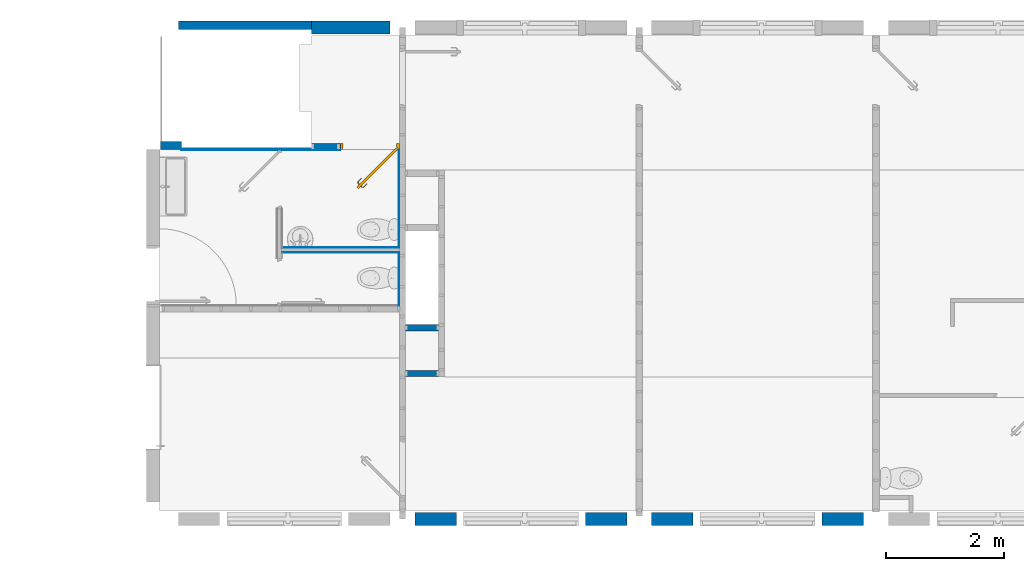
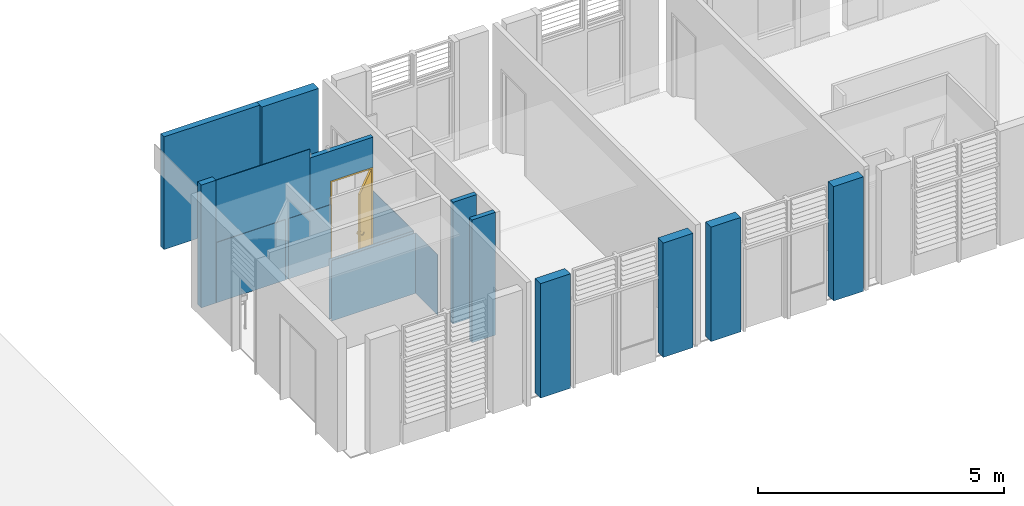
# One storey, part 4 of 15: 17 walls, 1 door, 5 openings.
"""IFC2X3 building model written with IfcOpenShell, lengths in metres."""

import ifcopenshell
import ifcopenshell.guid

model = None  # the IFC model being written
_history = None  # IfcOwnerHistory: only IFC2X3 demands one
_inside = {}  # id of a spatial element -> (the spatial element, [elements in it])
_under = {}  # id of a project, library or spatial element -> (it, [spatial elements below it])
_declared = {}  # id of a project -> (the project, [libraries it declares])
_typed = {}  # id of a type object -> (the type object, [elements of that type])
_made_of = {}  # id of a material, layer set ... -> (it, [elements and type objects made of it])


def new_model(schema):
    """Start an empty IFC model of exactly this schema.

    Asked for "IFC4X3", IfcOpenShell would pick the latest addendum, in which some entities
    have other attributes; the version numbers below select the first issue.
    IFC2X3 requires an IfcOwnerHistory on every rooted entity: one is made here for all.
    """
    global model, _history
    if schema == "IFC4X3":
        model = ifcopenshell.file(schema_version=(4, 3, 0, 0))
    else:
        model = ifcopenshell.file(schema=schema)
    _inside.clear()
    _under.clear()
    _declared.clear()
    _typed.clear()
    _made_of.clear()
    _history = None
    if model.schema == "IFC2X3":
        org = make("IfcOrganization", Name="unknown")
        user = make(
            "IfcPersonAndOrganization",
            ThePerson=make("IfcPerson", FamilyName="unknown"),
            TheOrganization=org,
        )
        app = make(
            "IfcApplication",
            ApplicationDeveloper=org,
            Version="unknown",
            ApplicationFullName="unknown",
            ApplicationIdentifier="unknown",
        )
        _history = make(
            "IfcOwnerHistory",
            OwningUser=user,
            OwningApplication=app,
            ChangeAction="ADDED",
            CreationDate=0,
        )
    return model


def make(cls, **values):
    """One entity of the class cls with the attributes given. An attribute that is None is left unset."""
    return model.create_entity(
        cls, **{name: value for name, value in values.items() if value is not None}
    )


def entity(cls, *values):
    """Any entity or typed value of the class cls, its attributes in the order of the schema. None: left unset."""
    e = model.create_entity(cls)
    for i, value in enumerate(values):
        if value is not None:
            e[i] = value
    return e


def rooted(cls, **values):
    """An entity with a GlobalId (a new one), such as an element, a storey or a relation."""
    return make(cls, GlobalId=ifcopenshell.guid.new(), OwnerHistory=_history, **values)


def si_unit(unit_type, name, prefix=None):
    """IfcSIUnit, for example si_unit("LENGTHUNIT", "METRE", prefix="MILLI")."""
    return make("IfcSIUnit", UnitType=unit_type, Prefix=prefix, Name=name)


def converted_unit(unit_type, name, factor, base, dimensions=None, offset=None):
    """IfcConversionBasedUnit, such as the inch: factor (a typed value) times the base unit."""
    return make(
        "IfcConversionBasedUnit"
        if offset is None
        else "IfcConversionBasedUnitWithOffset",
        ConversionOffset=offset,
        Dimensions=None
        if dimensions is None
        else entity("IfcDimensionalExponents", *dimensions),
        UnitType=unit_type,
        Name=name,
        ConversionFactor=make(
            "IfcMeasureWithUnit", ValueComponent=factor, UnitComponent=base
        ),
    )


def derived_unit(unit_type, elements):
    """IfcDerivedUnit: a product of units, each with its exponent."""
    return make(
        "IfcDerivedUnit",
        Elements=[
            make("IfcDerivedUnitElement", Unit=unit, Exponent=power)
            for unit, power in elements
        ],
        UnitType=unit_type,
    )


def assignment(units):
    """IfcUnitAssignment: the units of a project."""
    return None if units is None else make("IfcUnitAssignment", Units=units)


def point(xyz):
    """IfcCartesianPoint."""
    return None if xyz is None else make("IfcCartesianPoint", Coordinates=xyz)


def direction(xyz):
    """IfcDirection."""
    return None if xyz is None else make("IfcDirection", DirectionRatios=xyz)


def frame(location, z_axis=None, x_axis=None):
    """IfcAxis2Placement3D, a coordinate frame: its origin and axes. An axis left out is left unset."""
    return make(
        "IfcAxis2Placement3D",
        Location=point(location),
        Axis=direction(z_axis),
        RefDirection=direction(x_axis),
    )


def frame_2d(location, x_axis=None):
    """IfcAxis2Placement2D, a coordinate frame in the plane: its origin and x axis."""
    return make(
        "IfcAxis2Placement2D", Location=point(location), RefDirection=direction(x_axis)
    )


def origin():
    """The frame at (0, 0, 0) with its axes left unset."""
    return frame((0.0, 0.0, 0.0))


def place(relative_to, where):
    """IfcLocalPlacement: puts the frame where relative to a parent placement (None: the world)."""
    return make(
        "IfcLocalPlacement", PlacementRelTo=relative_to, RelativePlacement=where
    )


def context(
    kind, dimensions, precision=None, world=None, true_north=None, identifier=None
):
    """IfcGeometricRepresentationContext, for example the 3D "Model" context."""
    return make(
        "IfcGeometricRepresentationContext",
        ContextIdentifier=identifier,
        ContextType=kind,
        CoordinateSpaceDimension=dimensions,
        Precision=precision,
        WorldCoordinateSystem=world,
        TrueNorth=true_north,
    )


def subcontext(parent, identifier, kind, view, scale=None):
    """IfcGeometricRepresentationSubContext, for example "Body" below "Model"."""
    return make(
        "IfcGeometricRepresentationSubContext",
        ContextIdentifier=identifier,
        ContextType=kind,
        ParentContext=parent,
        TargetScale=scale,
        TargetView=view,
    )


def project(units=None, contexts=None):
    """IfcProject with its units and contexts."""
    return rooted(
        "IfcProject",
        Name="project",
        RepresentationContexts=contexts,
        UnitsInContext=assignment(units),
    )


def spatial(cls, under=None, at=None, **own):
    """A site, building, storey or space (cls), placed at a placement, below another one or the project."""
    s = rooted(cls, ObjectPlacement=at, **own)
    if under is not None:
        _under.setdefault(under.id(), (under, []))[1].append(s)
    return s


def polyline(points):
    """IfcPolyline through the points."""
    return make("IfcPolyline", Points=[point(p) for p in points])


def profile(cls, at=None, kind="AREA", **sizes):
    """A parametric profile (cls). Its sizes go by their IFC names, for example OverallWidth=200.0."""
    return make(cls, ProfileType=kind, Position=at, **sizes)


def rectangle(**sizes):
    """IfcRectangleProfileDef."""
    return profile("IfcRectangleProfileDef", **sizes)


def extrude(swept, where, along, depth):
    """IfcExtrudedAreaSolid: the profile swept, set in the frame where, extruded along a direction by depth."""
    return make(
        "IfcExtrudedAreaSolid",
        SweptArea=swept,
        Position=where,
        ExtrudedDirection=direction(along),
        Depth=depth,
    )


def clip(a, b, op="DIFFERENCE"):
    """IfcBooleanClippingResult: the solid a cut by the half space b."""
    return make(
        "IfcBooleanClippingResult", Operator=op, FirstOperand=a, SecondOperand=b
    )


def bounded_halfspace(plane, agree, where, boundary):
    """IfcPolygonalBoundedHalfSpace: a half space limited to a polygon's prism."""
    return make(
        "IfcPolygonalBoundedHalfSpace",
        BaseSurface=make("IfcPlane", Position=plane),
        AgreementFlag=agree,
        Position=where,
        PolygonalBoundary=boundary,
    )


def faces_of(points, faces, orient=None, outer=None):
    """IfcFace entities. A face is a list of loops; a loop is a list of indices into points, from 0.

    orient and outer hold one flag for each loop. By default every Orientation is true, the
    first loop of a face is its IfcFaceOuterBound and the others are IfcFaceBound.
    """
    made = []
    for i, loops in enumerate(faces):
        bounds = []
        for j, loop in enumerate(loops):
            is_outer = j == 0 if outer is None else outer[i][j]
            bounds.append(
                make(
                    "IfcFaceOuterBound" if is_outer else "IfcFaceBound",
                    Bound=make("IfcPolyLoop", Polygon=[points[k] for k in loop]),
                    Orientation=True if orient is None else orient[i][j],
                )
            )
        made.append(make("IfcFace", Bounds=bounds))
    return made


def faceted_brep(points, faces, orient=None, outer=None, voids=None):
    """IfcFacetedBrep: a solid bounded by flat faces; with voids (closed shells), ...WithVoids."""
    shared = [point(p) for p in points]
    hull = make("IfcClosedShell", CfsFaces=faces_of(shared, faces, orient, outer))
    if voids is None:
        return make("IfcFacetedBrep", Outer=hull)
    return make(
        "IfcFacetedBrepWithVoids",
        Outer=hull,
        Voids=[
            make(cls, CfsFaces=faces_of(shared, fs, o, b)) for cls, fs, o, b in voids
        ],
    )


def shape(context_of_items, identifier, shape_type, items):
    """IfcShapeRepresentation: the items that make up one representation, for example the "Body"."""
    return make(
        "IfcShapeRepresentation",
        ContextOfItems=context_of_items,
        RepresentationIdentifier=identifier,
        RepresentationType=shape_type,
        Items=items,
    )


def source(mapping_origin, context_of_items, identifier, shape_type, items):
    """IfcRepresentationMap: a shape defined once, which mapped items show again and again."""
    return make(
        "IfcRepresentationMap",
        MappingOrigin=mapping_origin,
        MappedRepresentation=shape(context_of_items, identifier, shape_type, items),
    )


def transform(
    local_origin,
    x_axis=None,
    y_axis=None,
    z_axis=None,
    scale=None,
    scale2=None,
    scale3=None,
    uniform=True,
):
    """IfcCartesianTransformationOperator3D, or its non-uniform kind. x_axis, y_axis, z_axis: its Axis1, 2, 3."""
    if uniform:
        return make(
            "IfcCartesianTransformationOperator3D",
            Axis1=direction(x_axis),
            Axis2=direction(y_axis),
            LocalOrigin=point(local_origin),
            Scale=scale,
            Axis3=direction(z_axis),
        )
    return make(
        "IfcCartesianTransformationOperator3DnonUniform",
        Axis1=direction(x_axis),
        Axis2=direction(y_axis),
        LocalOrigin=point(local_origin),
        Scale=scale,
        Axis3=direction(z_axis),
        Scale2=scale2,
        Scale3=scale3,
    )


def mapped(mapping_source, mapping_target):
    """IfcMappedItem: shows the shape of a source again, moved by a transform."""
    return make(
        "IfcMappedItem", MappingSource=mapping_source, MappingTarget=mapping_target
    )


def material(Name=None, Category=None):
    """IfcMaterial."""
    return make("IfcMaterial", Name=Name, Category=Category)


def layer(
    of_material, thickness, ventilated=None, Name=None, Category=None, Priority=None
):
    """IfcMaterialLayer: one layer of a wall or slab, of a material (None: an air gap)."""
    return make(
        "IfcMaterialLayer",
        Material=of_material,
        LayerThickness=thickness,
        IsVentilated=ventilated,
        Name=Name,
        Category=Category,
        Priority=Priority,
    )


def layer_set(layers, Name=None):
    """IfcMaterialLayerSet."""
    return make("IfcMaterialLayerSet", MaterialLayers=layers, LayerSetName=Name)


def layer_usage(for_layer_set, set_direction, sense, offset, extent=None):
    """IfcMaterialLayerSetUsage: how a layer set lies in its element."""
    return make(
        "IfcMaterialLayerSetUsage",
        ForLayerSet=for_layer_set,
        LayerSetDirection=set_direction,
        DirectionSense=sense,
        OffsetFromReferenceLine=offset,
        ReferenceExtent=extent,
    )


def made_of(thing, what):
    """Note that an element or type object is made of a material, layer set ...; save() writes the relation."""
    if what is not None:
        _made_of.setdefault(what.id(), (what, []))[1].append(thing)
    return thing


def type_object(cls, material=None, **own):
    """A type object (cls), such as IfcWallType, which elements share."""
    return made_of(rooted(cls, **own), material)


def type_shapes(of_type, sources):
    """Give a type object the sources (RepresentationMaps) that its elements show as mapped items."""
    of_type.RepresentationMaps = sources


def element(
    cls,
    number,
    at=None,
    inside=None,
    cuts=None,
    type_object=None,
    material=None,
    context=None,
    identifier="Body",
    shape_type=None,
    held_by="IfcProductDefinitionShape",
    body=None,
    shapes=None,
    **own,
):
    """One element of the class cls, such as IfcWall. Its Tag is "e" and its number.

    at: its placement. inside: the storey or other place that contains it. cuts: it is an
    opening in that element (IfcRelVoidsElement). A single representation is given by context,
    identifier, shape_type and body (its items); several are given by shapes. held_by: the class
    of the entity that holds the representations. save() writes the other relations.
    """
    e = rooted(cls, Tag="e%d" % number, ObjectPlacement=at, **own)
    if body is not None:
        shapes = [shape(context, identifier, shape_type, body)]
    if shapes is not None:
        e.Representation = make(held_by, Representations=shapes)
    if inside is not None:
        _inside.setdefault(inside.id(), (inside, []))[1].append(e)
    if cuts is not None:
        rooted(
            "IfcRelVoidsElement", RelatingBuildingElement=cuts, RelatedOpeningElement=e
        )
    if type_object is not None:
        _typed.setdefault(type_object.id(), (type_object, []))[1].append(e)
    return made_of(e, material)


def fill(opening, filler):
    """IfcRelFillsElement: the door or window that sits in an opening."""
    return rooted(
        "IfcRelFillsElement",
        RelatingOpeningElement=opening,
        RelatedBuildingElement=filler,
    )


def aggregate(whole, parts):
    """IfcRelAggregates: a whole, such as a stair, and the parts it consists of."""
    return rooted("IfcRelAggregates", RelatingObject=whole, RelatedObjects=parts)


def save(model, path):
    """Write the relations noted so far, then the file.

    IfcRelAggregates (storeys below a building ...), IfcRelContainedInSpatialStructure (elements
    in a storey), IfcRelDefinesByType, IfcRelAssociatesMaterial and IfcRelDeclares: one each for
    every whole, place, type object, material and project.
    """
    for whole, parts in _under.values():
        aggregate(whole, parts)
    for where, things in _inside.values():
        rooted(
            "IfcRelContainedInSpatialStructure",
            RelatedElements=things,
            RelatingStructure=where,
        )
    for kind, things in _typed.values():
        rooted("IfcRelDefinesByType", RelatedObjects=things, RelatingType=kind)
    for what, things in _made_of.values():
        rooted("IfcRelAssociatesMaterial", RelatedObjects=things, RelatingMaterial=what)
    for by, libraries in _declared.values():
        rooted("IfcRelDeclares", RelatingContext=by, RelatedDefinitions=libraries)
    model.write(path)


model = new_model("IFC2X3")

# Units and contexts
model_context = context("Model", 3, precision=1e-05, world=origin(), true_north=direction((6.12303176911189e-17, 1.0)))
body_context = subcontext(model_context, "Body", "Model", "MODEL_VIEW")
ifc_project = project(units=[si_unit("LENGTHUNIT", "METRE"), si_unit("AREAUNIT", "SQUARE_METRE"), si_unit("VOLUMEUNIT", "CUBIC_METRE"), converted_unit("PLANEANGLEUNIT", "DEGREE", entity("IfcRatioMeasure", 0.0174532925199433), si_unit("PLANEANGLEUNIT", "RADIAN"), dimensions=[0, 0, 0, 0, 0, 0, 0]), si_unit("MASSUNIT", "GRAM", prefix="KILO"), derived_unit("MASSDENSITYUNIT", [(si_unit("MASSUNIT", "GRAM", prefix="KILO"), 1), (si_unit("LENGTHUNIT", "METRE"), -3)]), si_unit("TIMEUNIT", "SECOND"), si_unit("FREQUENCYUNIT", "HERTZ"), si_unit("THERMODYNAMICTEMPERATUREUNIT", "DEGREE_CELSIUS"), derived_unit("THERMALTRANSMITTANCEUNIT", [(si_unit("MASSUNIT", "GRAM", prefix="KILO"), 1), (si_unit("THERMODYNAMICTEMPERATUREUNIT", "KELVIN"), -1), (si_unit("TIMEUNIT", "SECOND"), -3)]), derived_unit("VOLUMETRICFLOWRATEUNIT", [(si_unit("LENGTHUNIT", "METRE"), 3), (si_unit("TIMEUNIT", "SECOND"), -1)]), si_unit("ELECTRICCURRENTUNIT", "AMPERE"), si_unit("ELECTRICVOLTAGEUNIT", "VOLT"), si_unit("POWERUNIT", "WATT"), si_unit("FORCEUNIT", "NEWTON", prefix="KILO"), si_unit("ILLUMINANCEUNIT", "LUX"), si_unit("LUMINOUSFLUXUNIT", "LUMEN"), si_unit("LUMINOUSINTENSITYUNIT", "CANDELA"), derived_unit("USERDEFINED", [(si_unit("MASSUNIT", "GRAM", prefix="KILO"), -1), (si_unit("LENGTHUNIT", "METRE"), -2), (si_unit("TIMEUNIT", "SECOND"), 3), (si_unit("LUMINOUSFLUXUNIT", "LUMEN"), 1)]), derived_unit("LINEARVELOCITYUNIT", [(si_unit("LENGTHUNIT", "METRE"), 1), (si_unit("TIMEUNIT", "SECOND"), -1)]), si_unit("PRESSUREUNIT", "PASCAL"), derived_unit("USERDEFINED", [(si_unit("LENGTHUNIT", "METRE"), -2), (si_unit("MASSUNIT", "GRAM", prefix="KILO"), 1), (si_unit("TIMEUNIT", "SECOND"), -2)])], contexts=[model_context])

# Site, building, storey
site_placement = place(None, origin())
site = spatial("IfcSite", under=ifc_project, at=site_placement, Name="Surface", CompositionType="ELEMENT")
building_placement = place(site_placement, origin())
building = spatial("IfcBuilding", under=site, at=building_placement, Name="ExPREF", CompositionType="ELEMENT")
storey_placement = place(building_placement, frame((0.0, 0.0, 7.83)))
storey = spatial("IfcBuildingStorey", under=building, at=storey_placement, Name="R+2", CompositionType="ELEMENT", Elevation=7.83)

# Wall, opening, door
ifc_material_1 = material(Name="AA-peinture blanc satiné")
ifc_layer_1 = layer(ifc_material_1, 0.0125)
ifc_material_2 = material(Name="AA-isolant plancher")
ifc_layer_2 = layer(ifc_material_2, 0.08)
ifc_layer_3 = layer(ifc_material_1, 0.0125)
ifc_layer_set_1 = layer_set([ifc_layer_1, ifc_layer_2, ifc_layer_3], Name="Mur de base:A-cloison FC 10.5 cm")
ifc_layer_usage_1 = layer_usage(ifc_layer_set_1, "AXIS2", "NEGATIVE", 0.0525)
wall_type_1 = type_object("IfcWallType", Name="Mur de base:A-cloison FC 10.5 cm", PredefinedType="STANDARD", material=ifc_layer_set_1)
wall_1_placement = place(storey_placement, frame((47.949743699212, -187.066488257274, 0.0)))
wall_1 = element("IfcWallStandardCase", 1, at=wall_1_placement, inside=storey, type_object=wall_type_1, material=ifc_layer_usage_1, Name="Mur de base:A-cloison FC 10.5 cm", ObjectType="Mur de base:A-cloison FC 10.5 cm", context=body_context, shape_type="SweptSolid", body=[
    extrude(rectangle(XDim=1.48750000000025, YDim=0.104999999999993, at=frame_2d((0.743750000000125, 0.0), x_axis=(-1.0, 0.0))), origin(), (0.0, 0.0, 1.0), 2.82),
])
opening_1_placement = place(wall_1_placement, frame((1.48750000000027, 0.0525, 0.0)))
opening_1 = element("IfcOpeningElement", 2, at=opening_1_placement, cuts=wall_1, Name="Porte intérieur bois:PP (0.93m x 2.04m):1", ObjectType="Opening", context=body_context, shape_type="SweptSolid", body=[
    extrude(rectangle(XDim=2.075, YDim=1.0, at=frame_2d((1.0375, 0.5), x_axis=(1.0, 0.0))), frame((0.0, 0.0, 0.0), z_axis=(0.0, -1.0, 0.0), x_axis=(0.0, 0.0, 1.0)), (0.0, 0.0, 1.0), 0.105),
])
ifc_material_3 = material(Name="AA-Blanc satiné")
door_style = type_object("IfcDoorStyle", Name="PP (0.93m x 2.04m)", ConstructionType="NOTDEFINED", OperationType="SINGLE_SWING_LEFT", ParameterTakesPrecedence=False, Sizeable=False, material=ifc_material_3)
shared_shape = source(origin(), body_context, "Body", "Brep", [
    faceted_brep([(0.316565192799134, -0.584795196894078, 1.00778044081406), (0.313754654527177, -0.587605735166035, 1.007), (0.31375465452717, -0.587605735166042, 0.992999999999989), (0.316565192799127, -0.584795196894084, 0.99221955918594), (0.319429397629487, -0.581930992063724, 0.992219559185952), (0.32223993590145, -0.579120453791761, 0.993000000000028), (0.322239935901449, -0.579120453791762, 1.007), (0.319429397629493, -0.581930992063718, 1.00778044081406), (0.306340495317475, -0.563221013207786, 0.993000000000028), (0.306340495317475, -0.563221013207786, 1.007), (0.302365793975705, -0.56486738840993, 1.00778044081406), (0.302365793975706, -0.545331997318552, 1.00778044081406), (0.298315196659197, -0.543654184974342, 1.00778044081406), (0.298315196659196, -0.56654520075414, 1.00778044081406), (0.294340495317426, -0.568191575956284, 1.007), (0.294340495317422, -0.568191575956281, 0.992999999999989), (0.298315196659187, -0.566545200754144, 0.99221955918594), (0.298315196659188, -0.543654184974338, 0.99221955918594), (0.302365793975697, -0.545331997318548, 0.992219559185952), (0.302365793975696, -0.564867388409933, 0.992219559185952), (0.306340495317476, -0.546978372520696, 0.993000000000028), (0.306340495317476, -0.546978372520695, 1.007), (0.294340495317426, -0.542007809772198, 1.007), (0.294340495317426, -0.542007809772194, 0.992999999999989), (0.36471958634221, -0.488599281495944, 0.993000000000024), (0.361909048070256, -0.485788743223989, 0.992219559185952), (0.359044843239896, -0.48292453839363, 0.99221955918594), (0.356234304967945, -0.480114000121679, 0.992999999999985), (0.356234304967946, -0.480114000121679, 1.007), (0.359044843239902, -0.482924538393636, 1.00778044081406), (0.361909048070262, -0.485788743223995, 1.00778044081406), (0.364719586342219, -0.488599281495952, 1.007), (0.335530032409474, -0.517788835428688, 0.993000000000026), (0.335530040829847, -0.517788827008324, 1.007), (0.330705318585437, -0.51412826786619, 1.0078786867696), (0.322575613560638, -0.513772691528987, 1.007), (0.322575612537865, -0.513772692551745, 0.992999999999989), (0.330705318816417, -0.514128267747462, 0.992121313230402)], [[[0, 1, 2, 3, 4, 5, 6, 7]], [[6, 5, 8, 9]], [[9, 10, 7, 6]], [[10, 11, 12, 13, 0, 7]], [[13, 14, 1, 0]], [[2, 1, 14, 15]], [[15, 16, 3, 2]], [[16, 17, 18, 19, 4, 3]], [[19, 8, 5, 4]], [[9, 8, 20, 21]], [[21, 11, 10, 9]], [[12, 22, 14, 13]], [[15, 14, 22, 23]], [[23, 17, 16, 15]], [[18, 20, 8, 19]], [[24, 25, 26, 27, 28, 29, 30, 31]], [[21, 20, 32, 24, 31, 33]], [[33, 30, 34]], [[35, 34, 29]], [[21, 33, 11]], [[33, 31, 30]], [[28, 35, 29]], [[22, 12, 35]], [[35, 12, 34]], [[12, 11, 34]], [[11, 33, 34]], [[29, 34, 30]], [[22, 35, 28, 27, 36, 23]], [[36, 26, 37]], [[27, 26, 36]], [[17, 23, 36]], [[37, 32, 18]], [[20, 18, 32]], [[32, 25, 24]], [[26, 25, 37]], [[25, 32, 37]], [[17, 36, 37]], [[17, 37, 18]]]),
    faceted_brep([(0.351920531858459, -0.620150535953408, 1.00778044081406), (0.354784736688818, -0.617286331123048, 1.00778044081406), (0.357595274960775, -0.614475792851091, 1.00699999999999), (0.357595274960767, -0.614475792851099, 0.993000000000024), (0.354784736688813, -0.617286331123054, 0.992219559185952), (0.351920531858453, -0.620150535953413, 0.99221955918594), (0.349109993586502, -0.622961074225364, 0.992999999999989), (0.349109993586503, -0.622961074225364, 1.007), (0.368662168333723, -0.642513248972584, 1.007), (0.370308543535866, -0.638538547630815, 1.00778044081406), (0.3930050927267, -0.638538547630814, 1.00778044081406), (0.391327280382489, -0.634487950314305, 1.00778044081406), (0.371986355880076, -0.634487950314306, 1.00778044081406), (0.373632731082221, -0.630513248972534, 1.007), (0.373632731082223, -0.630513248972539, 0.993000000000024), (0.371986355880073, -0.634487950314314, 0.992219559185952), (0.391327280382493, -0.634487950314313, 0.992219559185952), (0.393005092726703, -0.638538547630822, 0.99221955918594), (0.370308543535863, -0.638538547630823, 0.99221955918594), (0.368662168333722, -0.642513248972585, 0.992999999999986), (0.394651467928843, -0.642513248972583, 1.007), (0.389680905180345, -0.630513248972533, 1.007), (0.38968090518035, -0.630513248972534, 0.993000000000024), (0.394651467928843, -0.642513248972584, 0.992999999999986), (0.456623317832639, -0.580541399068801, 0.992999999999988), (0.453812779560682, -0.577730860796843, 0.99221955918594), (0.450948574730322, -0.574866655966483, 0.992219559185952), (0.448138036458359, -0.57205611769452, 0.993000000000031), (0.44813803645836, -0.572056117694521, 1.007), (0.450948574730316, -0.574866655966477, 1.00778044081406), (0.453812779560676, -0.577730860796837, 1.00778044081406), (0.456623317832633, -0.580541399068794, 1.00699999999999), (0.422886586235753, -0.614278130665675, 1.007), (0.422570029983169, -0.606109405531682, 1.0078786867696), (0.418909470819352, -0.601284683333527, 1.007), (0.418909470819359, -0.601284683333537, 0.993000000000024), (0.422570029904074, -0.606109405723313, 0.992121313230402), (0.422886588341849, -0.614278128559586, 0.992999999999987)], [[[0, 1, 2, 3, 4, 5, 6, 7]], [[8, 9, 0, 7]], [[9, 10, 11, 12, 1, 0]], [[12, 13, 2, 1]], [[3, 2, 13, 14]], [[14, 15, 4, 3]], [[15, 16, 17, 18, 5, 4]], [[18, 19, 6, 5]], [[7, 6, 19, 8]], [[20, 10, 9, 8]], [[11, 21, 13, 12]], [[14, 13, 21, 22]], [[22, 16, 15, 14]], [[17, 23, 19, 18]], [[8, 19, 23, 20]], [[24, 25, 26, 27, 28, 29, 30, 31]], [[32, 30, 33]], [[31, 30, 32]], [[10, 20, 32]], [[33, 34, 11]], [[21, 11, 34]], [[34, 29, 28]], [[30, 29, 33]], [[29, 34, 33]], [[10, 32, 33]], [[10, 33, 11]], [[22, 21, 34, 28, 27, 35]], [[35, 26, 36]], [[37, 36, 25]], [[22, 35, 16]], [[35, 27, 26]], [[24, 37, 25]], [[23, 17, 37]], [[37, 17, 36]], [[17, 16, 36]], [[16, 35, 36]], [[25, 36, 26]], [[20, 23, 37, 24, 31, 32]]]),
    faceted_brep([(0.328853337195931, -0.579578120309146, 0.866003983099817), (0.335674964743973, -0.572756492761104, 0.870000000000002), (0.335674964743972, -0.572756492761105, 1.08), (0.32885333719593, -0.579578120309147, 1.08399601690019), (0.321532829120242, -0.586898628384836, 1.08535898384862), (0.314212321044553, -0.594219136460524, 1.08399601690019), (0.307390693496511, -0.601040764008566, 1.08), (0.307390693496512, -0.601040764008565, 0.870000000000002), (0.314212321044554, -0.594219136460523, 0.866003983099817), (0.321532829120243, -0.586898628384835, 0.86464101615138), (0.325317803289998, -0.576042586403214, 1.08399601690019), (0.33213943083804, -0.569220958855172, 1.08), (0.332139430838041, -0.569220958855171, 0.870000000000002), (0.325317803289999, -0.576042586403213, 0.866003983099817), (0.31799729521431, -0.583363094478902, 0.86464101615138), (0.310676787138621, -0.59068360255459, 0.866003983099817), (0.303855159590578, -0.597505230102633, 0.870000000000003), (0.303855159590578, -0.597505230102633, 1.08), (0.31067678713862, -0.590683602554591, 1.08399601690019), (0.317997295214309, -0.583363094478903, 1.08535898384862)], [[[0, 1, 2, 3, 4, 5, 6, 7, 8, 9]], [[10, 11, 12, 13, 14, 15, 16, 17, 18, 19]], [[11, 10, 3, 2]], [[3, 10, 19, 4]], [[19, 18, 5, 4]], [[18, 17, 6, 5]], [[7, 6, 17, 16]], [[16, 15, 8, 7]], [[8, 15, 14, 9]], [[14, 13, 0, 9]], [[13, 12, 1, 0]], [[2, 1, 12, 11]]]),
    faceted_brep([(0.360673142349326, -0.61139792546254, 0.866003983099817), (0.367494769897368, -0.604576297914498, 0.870000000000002), (0.367494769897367, -0.604576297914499, 1.08), (0.360673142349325, -0.611397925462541, 1.08399601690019), (0.353352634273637, -0.61871843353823, 1.08535898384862), (0.346032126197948, -0.626038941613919, 1.08399601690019), (0.339210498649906, -0.632860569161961, 1.08), (0.339210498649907, -0.63286056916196, 0.870000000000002), (0.346032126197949, -0.626038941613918, 0.866003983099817), (0.353352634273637, -0.618718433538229, 0.86464101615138), (0.357137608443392, -0.607862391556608, 1.08399601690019), (0.363959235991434, -0.601040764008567, 1.08), (0.363959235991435, -0.601040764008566, 0.870000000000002), (0.357137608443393, -0.607862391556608, 0.866003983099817), (0.349817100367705, -0.615182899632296, 0.86464101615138), (0.342496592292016, -0.622503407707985, 0.866003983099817), (0.335674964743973, -0.629325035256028, 0.870000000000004), (0.335674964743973, -0.629325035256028, 1.08), (0.342496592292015, -0.622503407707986, 1.08399601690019), (0.349817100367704, -0.615182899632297, 1.08535898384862)], [[[0, 1, 2, 3, 4, 5, 6, 7, 8, 9]], [[10, 11, 12, 13, 14, 15, 16, 17, 18, 19]], [[16, 15, 8, 7]], [[8, 15, 14, 9]], [[14, 13, 0, 9]], [[13, 12, 1, 0]], [[2, 1, 12, 11]], [[11, 10, 3, 2]], [[3, 10, 19, 4]], [[19, 18, 5, 4]], [[18, 17, 6, 5]], [[7, 6, 17, 16]]]),
    faceted_brep([(0.279106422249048, -0.629325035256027, 2.04), (0.936715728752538, 0.0282842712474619, 2.04), (0.936715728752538, 0.0282842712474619, 0.0), (0.279106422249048, -0.629325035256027, 0.0), (0.30739069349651, -0.657609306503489, 2.04), (0.30739069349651, -0.657609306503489, 0.0), (0.965, 0.0, 0.0), (0.965, 0.0, 2.04)], [[[0, 1, 2, 3]], [[4, 5, 6, 7]], [[1, 0, 4, 7]], [[2, 1, 7, 6]], [[3, 2, 6, 5]], [[0, 3, 5, 4]]]),
    faceted_brep([(0.0, 0.0, 0.0), (0.0, 0.105000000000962, 0.0), (0.0499999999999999, 0.105000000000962, 0.0), (0.0499999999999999, 0.0400000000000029, 0.0), (0.0349999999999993, 0.0400000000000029, 0.0), (0.0349999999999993, 0.0, 0.0), (0.0, 0.0, 2.07500000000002), (0.0, 0.105000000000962, 2.07500000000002), (1.0, 0.105000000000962, 2.07500000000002), (1.0, 0.105000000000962, 0.0), (0.95, 0.105000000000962, 0.0), (0.95, 0.105000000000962, 2.025), (0.0500000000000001, 0.105000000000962, 2.025), (0.05, 0.0400000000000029, 2.025), (0.95, 0.0400000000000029, 2.025), (0.95, 0.0400000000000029, 0.0), (0.965, 0.0400000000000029, 0.0), (0.965, 0.0400000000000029, 2.04), (0.0349999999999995, 0.0400000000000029, 2.04), (0.0349999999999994, 0.0, 2.04), (0.965, 0.0, 2.04), (0.965, 0.0, 0.0), (1.0, 0.0, 0.0), (1.0, 0.0, 2.07500000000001)], [[[0, 1, 2, 3, 4, 5]], [[1, 0, 6, 7]], [[2, 1, 7, 8, 9, 10, 11, 12]], [[3, 2, 12, 13]], [[4, 3, 13, 14, 15, 16, 17, 18]], [[5, 4, 18, 19]], [[0, 5, 19, 20, 21, 22, 23, 6]], [[8, 23, 22, 9]], [[22, 21, 16, 15, 10, 9]], [[14, 11, 10, 15]], [[20, 17, 16, 21]], [[7, 6, 23, 8]], [[13, 12, 11, 14]], [[19, 18, 17, 20]]]),
])
type_shapes(door_style, [shared_shape])
door_placement = place(opening_1_placement, frame((-1.0, -0.10499999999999, 0.0)))
door = element("IfcDoor", 3, at=door_placement, inside=storey, type_object=door_style, material=ifc_material_3, Name="Porte intérieur bois:PP (0.93m x 2.04m)", ObjectType="PP (0.93m x 2.04m)", OverallHeight=2.075, OverallWidth=0.999999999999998, context=body_context, shape_type="MappedRepresentation", body=[
    mapped(shared_shape, transform((0.0, 0.0, 0.0), scale=1.0)),
])
fill(opening_1, door)

# Walls
ifc_layer_usage_2 = layer_usage(ifc_layer_set_1, "AXIS2", "NEGATIVE", 0.0525)
wall_2_placement = place(storey_placement, frame((49.5422436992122, -190.900069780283, 0.0)))
element("IfcWallStandardCase", 4, at=wall_2_placement, inside=storey, type_object=wall_type_1, material=ifc_layer_usage_2, Name="Mur de base:A-cloison FC 10.5 cm", ObjectType="Mur de base:A-cloison FC 10.5 cm", context=body_context, shape_type="SweptSolid", body=[
    extrude(rectangle(XDim=0.555000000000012, YDim=0.104999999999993, at=frame_2d((0.277500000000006, 0.0), x_axis=(-1.0, 0.0))), origin(), (0.0, 0.0, 1.0), 3.05),
])
ifc_layer_usage_3 = layer_usage(ifc_layer_set_1, "AXIS2", "NEGATIVE", 0.0525)
wall_3_placement = place(storey_placement, frame((50.0972436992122, -190.128069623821, 0.0), z_axis=(0.0, 0.0, 1.0), x_axis=(-1.0, 0.0, 0.0)))
element("IfcWallStandardCase", 5, at=wall_3_placement, inside=storey, type_object=wall_type_1, material=ifc_layer_usage_3, Name="Mur de base:A-cloison FC 10.5 cm", ObjectType="Mur de base:A-cloison FC 10.5 cm", context=body_context, shape_type="SweptSolid", body=[
    extrude(rectangle(XDim=0.555000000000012, YDim=0.104999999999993, at=frame_2d((0.277500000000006, 0.0), x_axis=(-1.0, 0.0))), origin(), (0.0, 0.0, 1.0), 3.02),
])
ifc_material_4 = material(Name="AA-BTC")
ifc_layer_4 = layer(ifc_material_4, 0.22)
ifc_layer_set_2 = layer_set([ifc_layer_4], Name="Mur de base:A-prémur BTC")
ifc_layer_usage_4 = layer_usage(ifc_layer_set_2, "AXIS2", "NEGATIVE", 0.11)
wall_type_2 = type_object("IfcWallType", Name="Mur de base:A-prémur BTC", PredefinedType="STANDARD", material=ifc_layer_set_2)
wall_4_placement = place(storey_placement, frame((49.2797436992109, -185.056487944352, 0.0999999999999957), z_axis=(0.0, 0.0, 1.0), x_axis=(-1.0, 0.0, 0.0)))
element("IfcWallStandardCase", 6, at=wall_4_placement, inside=storey, type_object=wall_type_2, material=ifc_layer_usage_4, Name="Mur de base:A-prémur BTC", ObjectType="Mur de base:A-prémur BTC", context=body_context, shape_type="Clipping", body=[
    clip(clip(extrude(rectangle(XDim=1.32999999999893, YDim=0.220000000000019, at=frame_2d((0.664999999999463, -2.26901830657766e-15), x_axis=(-1.0, 0.0))), origin(), (0.0, 0.0, 1.0), 2.8), bounded_halfspace(frame((1.32761616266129, 0.0299999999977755, 2.8), z_axis=(0.0, 1.0, 0.0), x_axis=(-1.0, 0.0, 0.0)), True, frame((1.32761616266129, 0.0299999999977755, 2.8), z_axis=(0.0, 1.0, 0.0), x_axis=(-1.0, 0.0, 0.0)), polyline([(0.0, 0.0), (-0.0023838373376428, 0.0), (-0.0023838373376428, -2.8), (0.0, -2.8), (0.0, 0.0)]))), bounded_halfspace(frame((1.32761616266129, 0.0299999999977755, 0.0), z_axis=(-1.0, 0.0, 0.0), x_axis=(0.0, 1.0, 0.0)), True, frame((1.32761616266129, 0.0299999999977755, 0.0), z_axis=(-1.0, 0.0, 0.0), x_axis=(0.0, 1.0, 0.0)), polyline([(0.0, 0.0), (-0.13999999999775, 0.0), (-0.13999999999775, -2.8), (0.0, -2.8), (0.0, 0.0)]))),
])
ifc_layer_usage_5 = layer_usage(ifc_layer_set_2, "AXIS2", "NEGATIVE", 0.11)
wall_5_placement = place(storey_placement, frame((49.6997436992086, -193.359651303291, 0.0999999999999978)))
element("IfcWallStandardCase", 7, at=wall_5_placement, inside=storey, type_object=wall_type_2, material=ifc_layer_usage_5, Name="Mur de base:A-prémur BTC", ObjectType="Mur de base:A-prémur BTC", context=body_context, shape_type="SweptSolid", body=[
    extrude(rectangle(XDim=0.699999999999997, YDim=0.220000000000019, at=frame_2d((0.349999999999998, -5.98826543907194e-15), x_axis=(-1.0, 0.0))), origin(), (0.0, 0.0, 1.0), 2.84),
])
ifc_layer_usage_6 = layer_usage(ifc_layer_set_2, "AXIS2", "POSITIVE", -0.11)
wall_6_placement = place(storey_placement, frame((53.2797436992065, -193.359651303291, 0.0999999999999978), z_axis=(0.0, 0.0, 1.0), x_axis=(-1.0, 0.0, 0.0)))
element("IfcWallStandardCase", 8, at=wall_6_placement, inside=storey, type_object=wall_type_2, material=ifc_layer_usage_6, Name="Mur de base:A-prémur BTC", ObjectType="Mur de base:A-prémur BTC", context=body_context, shape_type="SweptSolid", body=[
    extrude(rectangle(XDim=0.700000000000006, YDim=0.220000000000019, at=frame_2d((0.350000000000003, -5.98826543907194e-15), x_axis=(-1.0, 0.0))), origin(), (0.0, 0.0, 1.0), 2.84),
])
ifc_layer_usage_7 = layer_usage(ifc_layer_set_2, "AXIS2", "NEGATIVE", 0.11)
wall_7_placement = place(storey_placement, frame((53.6997436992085, -193.359651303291, 0.0999999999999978)))
element("IfcWallStandardCase", 9, at=wall_7_placement, inside=storey, type_object=wall_type_2, material=ifc_layer_usage_7, Name="Mur de base:A-prémur BTC", ObjectType="Mur de base:A-prémur BTC", context=body_context, shape_type="SweptSolid", body=[
    extrude(rectangle(XDim=0.699999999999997, YDim=0.220000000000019, at=frame_2d((0.349999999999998, -5.98826543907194e-15), x_axis=(-1.0, 0.0))), origin(), (0.0, 0.0, 1.0), 2.84),
])
ifc_layer_usage_8 = layer_usage(ifc_layer_set_2, "AXIS2", "POSITIVE", -0.11)
wall_8_placement = place(storey_placement, frame((57.2797436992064, -193.359651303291, 0.0999999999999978), z_axis=(0.0, 0.0, 1.0), x_axis=(-1.0, 0.0, 0.0)))
element("IfcWallStandardCase", 10, at=wall_8_placement, inside=storey, type_object=wall_type_2, material=ifc_layer_usage_8, Name="Mur de base:A-prémur BTC", ObjectType="Mur de base:A-prémur BTC", context=body_context, shape_type="SweptSolid", body=[
    extrude(rectangle(XDim=0.700000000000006, YDim=0.220000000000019, at=frame_2d((0.350000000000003, -5.98826543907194e-15), x_axis=(-1.0, 0.0))), origin(), (0.0, 0.0, 1.0), 2.84),
])
ifc_layer_5 = layer(ifc_material_4, 0.14)
ifc_layer_set_3 = layer_set([ifc_layer_5], Name="Mur de base:A-mur BTC 14 cm")
ifc_layer_usage_9 = layer_usage(ifc_layer_set_3, "AXIS2", "NEGATIVE", 0.07)
wall_type_3 = type_object("IfcWallType", Name="Mur de base:A-mur BTC 14 cm", PredefinedType="STANDARD", material=ifc_layer_set_3)
wall_9_placement = place(storey_placement, frame((45.749743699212, -187.046488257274, -0.00999999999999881), z_axis=(0.0, 0.0, 1.0), x_axis=(-1.0, 0.0, 0.0)))
element("IfcWallStandardCase", 11, at=wall_9_placement, inside=storey, type_object=wall_type_3, material=ifc_layer_usage_9, Name="Mur de base:A-mur BTC 14 cm", ObjectType="Mur de base:A-mur BTC 14 cm", context=body_context, shape_type="SweptSolid", body=[
    extrude(rectangle(XDim=0.350000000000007, YDim=0.139999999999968, at=frame_2d((0.175000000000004, 0.0), x_axis=(-1.0, 0.0))), origin(), (0.0, 0.0, 1.0), 3.05),
])
ifc_layer_usage_10 = layer_usage(ifc_layer_set_3, "AXIS2", "POSITIVE", -0.07)
wall_10_placement = place(storey_placement, frame((47.9521275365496, -185.01648794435, 0.0999999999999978), z_axis=(0.0, 0.0, 1.0), x_axis=(-1.0, 0.0, 0.0)))
element("IfcWallStandardCase", 12, at=wall_10_placement, inside=storey, type_object=wall_type_3, material=ifc_layer_usage_10, Name="Mur de base:A-mur BTC 14 cm", ObjectType="Mur de base:A-mur BTC 14 cm", context=body_context, shape_type="SweptSolid", body=[
    extrude(rectangle(XDim=2.25238383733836, YDim=0.139999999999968, at=frame_2d((1.12619191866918, 8.18095591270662e-15), x_axis=(-1.0, 0.0))), origin(), (0.0, 0.0, 1.0), 2.8),
])

# Wall, opening
ifc_material_5 = material(Name="AA-fermacell peint")
ifc_layer_6 = layer(ifc_material_5, 0.0125)
ifc_layer_set_4 = layer_set([ifc_layer_6], Name="Mur de base:A-plaque FC")
ifc_layer_usage_11 = layer_usage(ifc_layer_set_4, "AXIS2", "NEGATIVE", 0.00625)
wall_type_4 = type_object("IfcWallType", Name="Mur de base:A-plaque FC", PredefinedType="STANDARD", material=ifc_layer_set_4)
wall_11_placement = place(storey_placement, frame((45.749743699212, -187.112738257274, 0.0)))
wall_11 = element("IfcWallStandardCase", 13, at=wall_11_placement, inside=storey, type_object=wall_type_4, material=ifc_layer_usage_11, Name="Mur de base:A-plaque FC", ObjectType="Mur de base:A-plaque FC", context=body_context, shape_type="SweptSolid", body=[
    extrude(rectangle(XDim=2.19999999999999, YDim=0.0125000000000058, at=frame_2d((1.1, 0.0), x_axis=(-1.0, 0.0))), origin(), (0.0, 0.0, 1.0), 3.04),
])
opening_2_placement = place(wall_11_placement, frame((1.62400000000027, -1.00625000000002, 0.0)))
element("IfcOpeningElement", 14, at=opening_2_placement, cuts=wall_11, Name="Mur de base:A-plaque FC", ObjectType="Opening", context=body_context, shape_type="SweptSolid", body=[
    extrude(rectangle(XDim=2.075, YDim=0.0700000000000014, at=frame_2d((0.0, 5.55111512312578e-16), x_axis=(0.0, 1.0))), frame((0.0350000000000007, 0.0, 1.0375), z_axis=(0.0, 1.0, 0.0), x_axis=(-1.0, 0.0, 0.0)), (0.0, 0.0, 1.0), 0.999999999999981),
])

ifc_material_6 = material(Name="AA-sol carrelage")
ifc_layer_7 = layer(ifc_material_6, 0.01)
ifc_layer_set_5 = layer_set([ifc_layer_7], Name="Mur de base:A-carrelage")
ifc_layer_usage_12 = layer_usage(ifc_layer_set_5, "AXIS2", "NEGATIVE", 0.005)
wall_type_5 = type_object("IfcWallType", Name="Mur de base:A-carrelage", PredefinedType="STANDARD", material=ifc_layer_set_5)
wall_12_placement = place(storey_placement, frame((45.749743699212, -187.123988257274, 0.0)))
wall_12 = element("IfcWallStandardCase", 15, at=wall_12_placement, inside=storey, type_object=wall_type_5, material=ifc_layer_usage_12, Name="Mur de base:A-carrelage", ObjectType="Mur de base:A-carrelage", context=body_context, shape_type="SweptSolid", body=[
    extrude(rectangle(XDim=1.62400000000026, YDim=0.0100000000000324, at=frame_2d((0.812000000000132, 0.0), x_axis=(-1.0, 0.0))), origin(), (0.0, 0.0, 1.0), 1.5),
])
opening_3_placement = place(wall_12_placement, frame((1.62400000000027, -0.995000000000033, 0.0)))
element("IfcOpeningElement", 16, at=opening_3_placement, cuts=wall_12, Name="Mur de base:A-carrelage", ObjectType="Opening", context=body_context, shape_type="SweptSolid", body=[
    extrude(rectangle(XDim=2.075, YDim=0.0700000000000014, at=frame_2d((0.0, 5.55111512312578e-16), x_axis=(0.0, 1.0))), frame((0.0350000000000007, 0.0, 1.0375), z_axis=(0.0, 1.0, 0.0), x_axis=(-1.0, 0.0, 0.0)), (0.0, 0.0, 1.0), 0.999999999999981),
])

ifc_layer_usage_13 = layer_usage(ifc_layer_set_5, "AXIS2", "NEGATIVE", 0.005)
wall_13_placement = place(storey_placement, frame((47.4437436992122, -187.123988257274, 0.0)))
wall_13 = element("IfcWallStandardCase", 17, at=wall_13_placement, inside=storey, type_object=wall_type_5, material=ifc_layer_usage_13, Name="Mur de base:A-carrelage", ObjectType="Mur de base:A-carrelage", context=body_context, shape_type="SweptSolid", body=[
    extrude(rectangle(XDim=0.993499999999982, YDim=0.0100000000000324, at=frame_2d((0.496749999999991, 0.0), x_axis=(-1.0, 0.0))), origin(), (0.0, 0.0, 1.0), 1.5),
])
opening_4_placement = place(wall_13_placement, frame((-0.0700000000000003, -0.995000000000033, 0.0)))
element("IfcOpeningElement", 18, at=opening_4_placement, cuts=wall_13, Name="Mur de base:A-carrelage", ObjectType="Opening", context=body_context, shape_type="SweptSolid", body=[
    extrude(rectangle(XDim=2.075, YDim=0.0700000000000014, at=frame_2d((0.0, 5.55111512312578e-16), x_axis=(0.0, 1.0))), frame((0.0350000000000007, 0.0, 1.0375), z_axis=(0.0, 1.0, 0.0), x_axis=(-1.0, 0.0, 0.0)), (0.0, 0.0, 1.0), 0.999999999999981),
])

ifc_layer_usage_14 = layer_usage(ifc_layer_set_5, "AXIS2", "NEGATIVE", 0.005)
wall_14_placement = place(storey_placement, frame((49.4322436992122, -187.118988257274, 0.0), z_axis=(0.0, 0.0, 1.0), x_axis=(0.0, -1.0, 0.0)))
wall_14 = element("IfcWallStandardCase", 19, at=wall_14_placement, inside=storey, type_object=wall_type_5, material=ifc_layer_usage_14, Name="Mur de base:A-carrelage", ObjectType="Mur de base:A-carrelage", context=body_context, shape_type="SweptSolid", body=[
    extrude(rectangle(XDim=1.66108136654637, YDim=0.00999999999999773, at=frame_2d((0.830540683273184, 0.0), x_axis=(-1.0, 0.0))), origin(), (0.0, 0.0, 1.0), 1.5),
])
opening_5_placement = place(wall_14_placement, frame((0.0, -0.994999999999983, 0.0)))
element("IfcOpeningElement", 20, at=opening_5_placement, cuts=wall_14, Name="Mur de base:A-carrelage", ObjectType="Opening", context=body_context, shape_type="SweptSolid", body=[
    extrude(rectangle(XDim=2.075, YDim=0.104999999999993, at=frame_2d((0.0, 5.55111512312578e-16), x_axis=(0.0, 1.0))), frame((-0.0524999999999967, 0.0, 1.0375), z_axis=(0.0, 1.0, 0.0), x_axis=(-1.0, 0.0, 0.0)), (0.0, 0.0, 1.0), 0.999999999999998),
])

# Walls
ifc_layer_usage_15 = layer_usage(ifc_layer_set_5, "AXIS2", "NEGATIVE", 0.005)
wall_15_placement = place(storey_placement, frame((49.4272436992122, -188.77506962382, 0.0), z_axis=(0.0, 0.0, 1.0), x_axis=(-1.0, 0.0, 0.0)))
element("IfcWallStandardCase", 21, at=wall_15_placement, inside=storey, type_object=wall_type_5, material=ifc_layer_usage_15, Name="Mur de base:A-carrelage", ObjectType="Mur de base:A-carrelage", context=body_context, shape_type="SweptSolid", body=[
    extrude(rectangle(XDim=1.98349999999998, YDim=0.0100000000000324, at=frame_2d((0.991749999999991, 0.0), x_axis=(-1.0, 0.0))), origin(), (0.0, 0.0, 1.0), 1.5),
])
ifc_layer_usage_16 = layer_usage(ifc_layer_set_5, "AXIS2", "NEGATIVE", 0.005)
wall_16_placement = place(storey_placement, frame((47.4537436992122, -188.855069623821, 0.0)))
element("IfcWallStandardCase", 22, at=wall_16_placement, inside=storey, type_object=wall_type_5, material=ifc_layer_usage_16, Name="Mur de base:A-carrelage", ObjectType="Mur de base:A-carrelage", context=body_context, shape_type="SweptSolid", body=[
    extrude(rectangle(XDim=1.98349999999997, YDim=0.0100000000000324, at=frame_2d((0.991749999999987, 0.0), x_axis=(-1.0, 0.0))), origin(), (0.0, 0.0, 1.0), 1.5),
])
ifc_layer_usage_17 = layer_usage(ifc_layer_set_5, "AXIS2", "NEGATIVE", 0.005)
wall_17_placement = place(storey_placement, frame((49.4322436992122, -188.86006962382, 0.0), z_axis=(0.0, 0.0, 1.0), x_axis=(0.0, -1.0, 0.0)))
element("IfcWallStandardCase", 23, at=wall_17_placement, inside=storey, type_object=wall_type_5, material=ifc_layer_usage_17, Name="Mur de base:A-carrelage", ObjectType="Mur de base:A-carrelage", context=body_context, shape_type="SweptSolid", body=[
    extrude(rectangle(XDim=0.895499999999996, YDim=0.00999999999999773, at=frame_2d((0.447749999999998, 0.0), x_axis=(-1.0, 0.0))), origin(), (0.0, 0.0, 1.0), 1.5),
])

save(model, "model.ifc")
